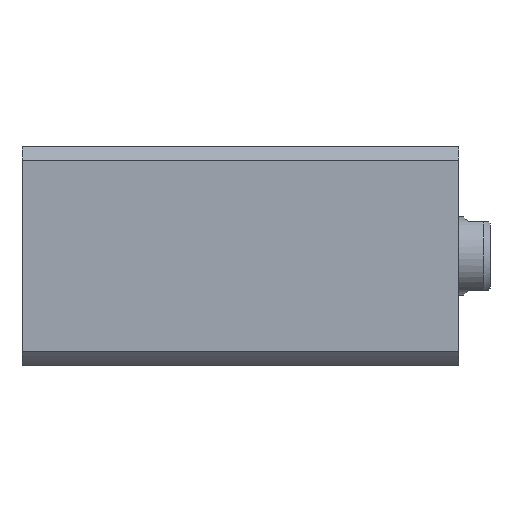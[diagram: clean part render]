
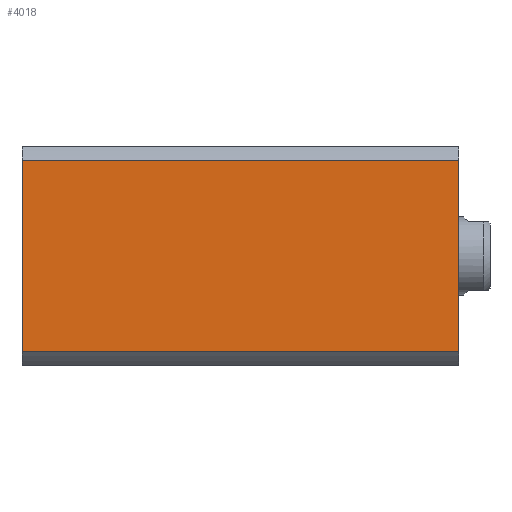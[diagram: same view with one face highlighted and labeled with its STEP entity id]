
A CAD part, left-side view. The second image highlights one B-rep face of the part: STEP entity #4018.
In plain terms, the highlighted planar face has unit normal (-1, 0, 0).
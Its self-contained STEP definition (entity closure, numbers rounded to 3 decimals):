
#37 = CARTESIAN_POINT ( 'NONE',  ( -35., -30.615, 300. ) ) ;
#119 = ORIENTED_EDGE ( 'NONE', *, *, #3649, .F. ) ;
#283 = CARTESIAN_POINT ( 'NONE',  ( -35., 30.615, 140. ) ) ;
#486 = AXIS2_PLACEMENT_3D ( 'NONE', #6240, #7010, #2304 ) ;
#598 = ORIENTED_EDGE ( 'NONE', *, *, #9020, .F. ) ;
#609 = VERTEX_POINT ( 'NONE', #2397 ) ;
#905 = VECTOR ( 'NONE', #5958, 1000. ) ;
#913 = LINE ( 'NONE', #2907, #6937 ) ;
#1174 = LINE ( 'NONE', #1506, #9312 ) ;
#1506 = CARTESIAN_POINT ( 'NONE',  ( -35., 35., 0. ) ) ;
#1591 = DIRECTION ( 'NONE',  ( 0., 0., -1. ) ) ;
#1675 = EDGE_LOOP ( 'NONE', ( #598, #119, #5314, #2934 ) ) ;
#2109 = DIRECTION ( 'NONE',  ( 0., -1., 0. ) ) ;
#2304 = DIRECTION ( 'NONE',  ( 0., 1., 0. ) ) ;
#2336 = LINE ( 'NONE', #37, #2573 ) ;
#2397 = CARTESIAN_POINT ( 'NONE',  ( -35., -30.615, 0. ) ) ;
#2573 = VECTOR ( 'NONE', #1591, 1000. ) ;
#2907 = CARTESIAN_POINT ( 'NONE',  ( -35., 35., 140. ) ) ;
#2934 = ORIENTED_EDGE ( 'NONE', *, *, #5372, .T. ) ;
#3083 = DIRECTION ( 'NONE',  ( 0., -1., 0. ) ) ;
#3639 = CARTESIAN_POINT ( 'NONE',  ( -35., -30.615, 140. ) ) ;
#3649 = EDGE_CURVE ( 'NONE', #5224, #5801, #913, .T. ) ;
#4018 = ADVANCED_FACE ( 'NONE', ( #7809 ), #9374, .F. ) ;
#4510 = EDGE_CURVE ( 'NONE', #6383, #5224, #7170, .T. ) ;
#4775 = CARTESIAN_POINT ( 'NONE',  ( -35., 30.615, 0. ) ) ;
#5159 = CARTESIAN_POINT ( 'NONE',  ( -35., 30.615, 300. ) ) ;
#5224 = VERTEX_POINT ( 'NONE', #283 ) ;
#5314 = ORIENTED_EDGE ( 'NONE', *, *, #4510, .F. ) ;
#5372 = EDGE_CURVE ( 'NONE', #6383, #609, #1174, .T. ) ;
#5801 = VERTEX_POINT ( 'NONE', #3639 ) ;
#5958 = DIRECTION ( 'NONE',  ( 0., 0., 1. ) ) ;
#6240 = CARTESIAN_POINT ( 'NONE',  ( -35., 35., 140. ) ) ;
#6383 = VERTEX_POINT ( 'NONE', #4775 ) ;
#6937 = VECTOR ( 'NONE', #2109, 1000. ) ;
#7010 = DIRECTION ( 'NONE',  ( 1., 0., 0. ) ) ;
#7170 = LINE ( 'NONE', #5159, #905 ) ;
#7809 = FACE_OUTER_BOUND ( 'NONE', #1675, .T. ) ;
#9020 = EDGE_CURVE ( 'NONE', #5801, #609, #2336, .T. ) ;
#9312 = VECTOR ( 'NONE', #3083, 1000. ) ;
#9374 = PLANE ( 'NONE',  #486 ) ;
